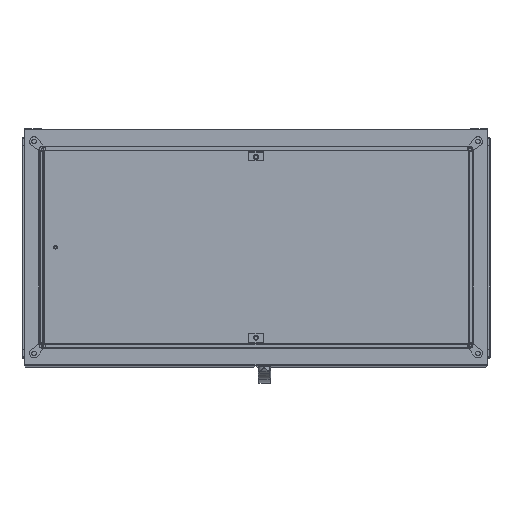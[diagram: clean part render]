
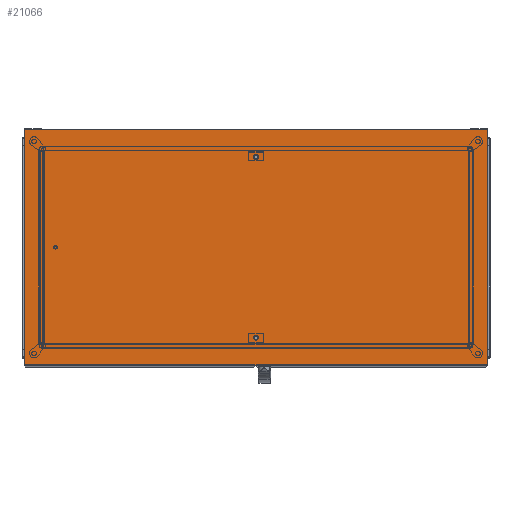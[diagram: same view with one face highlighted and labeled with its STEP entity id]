
A CAD part, top view. The second image highlights one B-rep face of the part: STEP entity #21066.
In plain terms, the highlighted planar face has unit normal (0, 0, 1) as drawn and (0, -1, 0) by its records, which use the part's own axes.
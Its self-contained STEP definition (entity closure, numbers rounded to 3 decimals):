
#1364=CIRCLE('',#22993,6.318);
#1365=CIRCLE('',#22994,6.318);
#6048=ORIENTED_EDGE('',*,*,#9968,.F.);
#6049=ORIENTED_EDGE('',*,*,#9981,.F.);
#6050=ORIENTED_EDGE('',*,*,#9927,.F.);
#6051=ORIENTED_EDGE('',*,*,#9974,.F.);
#6052=ORIENTED_EDGE('',*,*,#9988,.F.);
#6053=ORIENTED_EDGE('',*,*,#9989,.F.);
#9927=EDGE_CURVE('',#12233,#12234,#14279,.T.);
#9968=EDGE_CURVE('',#12268,#12269,#14309,.T.);
#9974=EDGE_CURVE('',#12269,#12233,#14314,.T.);
#9981=EDGE_CURVE('',#12234,#12268,#14321,.T.);
#9988=EDGE_CURVE('',#12282,#12282,#1364,.T.);
#9989=EDGE_CURVE('',#12283,#12283,#1365,.T.);
#12233=VERTEX_POINT('',#34709);
#12234=VERTEX_POINT('',#34711);
#12268=VERTEX_POINT('',#34789);
#12269=VERTEX_POINT('',#34791);
#12282=VERTEX_POINT('',#34827);
#12283=VERTEX_POINT('',#34829);
#14279=LINE('',#34710,#16348);
#14309=LINE('',#34790,#16378);
#14314=LINE('',#34802,#16383);
#14321=LINE('',#34814,#16390);
#16348=VECTOR('',#27973,1000.);
#16378=VECTOR('',#28033,1000.);
#16383=VECTOR('',#28042,1000.);
#16390=VECTOR('',#28051,1000.);
#17853=EDGE_LOOP('',(#6048,#6049,#6050,#6051));
#17854=EDGE_LOOP('',(#6052));
#17855=EDGE_LOOP('',(#6053));
#19156=FACE_BOUND('',#17853,.T.);
#19157=FACE_BOUND('',#17854,.T.);
#19158=FACE_BOUND('',#17855,.T.);
#20026=PLANE('',#22992);
#21066=ADVANCED_FACE('',(#19156,#19157,#19158),#20026,.F.);
#22992=AXIS2_PLACEMENT_3D('',#34825,#28058,#28059);
#22993=AXIS2_PLACEMENT_3D('',#34826,#28060,#28061);
#22994=AXIS2_PLACEMENT_3D('',#34828,#28062,#28063);
#27973=DIRECTION('',(1.,0.,0.));
#28033=DIRECTION('',(-1.,0.,0.));
#28042=DIRECTION('',(0.,0.,1.));
#28051=DIRECTION('',(0.,0.,-1.));
#28058=DIRECTION('',(0.,1.,0.));
#28059=DIRECTION('',(0.,0.,1.));
#28060=DIRECTION('',(0.,-1.,0.));
#28061=DIRECTION('',(0.,0.,-1.));
#28062=DIRECTION('',(0.,-1.,0.));
#28063=DIRECTION('',(0.,0.,-1.));
#34709=CARTESIAN_POINT('',(-599.5,0.,305.5));
#34710=CARTESIAN_POINT('',(-599.5,0.,305.5));
#34711=CARTESIAN_POINT('',(599.5,0.,305.5));
#34789=CARTESIAN_POINT('',(599.5,0.,-305.5));
#34790=CARTESIAN_POINT('',(599.5,0.,-305.5));
#34791=CARTESIAN_POINT('',(-599.5,0.,-305.5));
#34802=CARTESIAN_POINT('',(-599.5,0.,-305.5));
#34814=CARTESIAN_POINT('',(599.5,0.,305.5));
#34825=CARTESIAN_POINT('',(0.,0.,0.));
#34826=CARTESIAN_POINT('',(0.,0.,234.));
#34827=CARTESIAN_POINT('',(0.,0.,227.682));
#34828=CARTESIAN_POINT('',(0.,0.,-234.));
#34829=CARTESIAN_POINT('',(0.,0.,-240.318));
